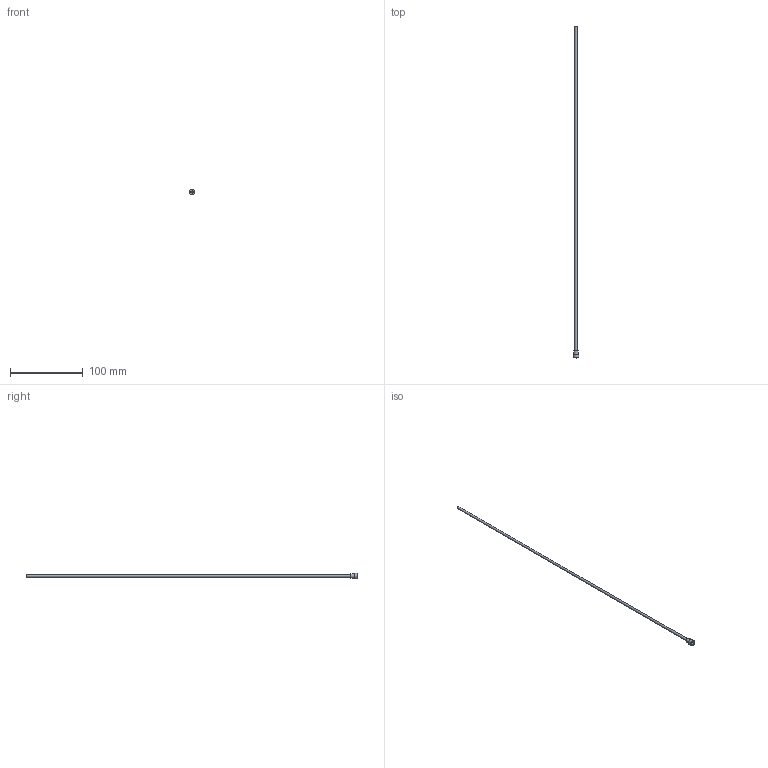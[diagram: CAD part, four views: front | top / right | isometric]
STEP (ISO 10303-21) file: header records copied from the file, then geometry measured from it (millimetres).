
FILE_DESCRIPTION(/* description */ (''),/* implementation_level */ '2;1');
FILE_NAME(/* name */ 'C:/Users/drich/Desktop/JR125T-18 v2.step',/* time_stamp */ '2019-12-30T13:02:20-06:00',/* author */ (''),/* organization */ (''),/* preprocessor_version */ 'ST-DEVELOPER v18',/* originating_system */ 'Autodesk Translation Framework v8.12.0.6',/* authorisation */ '');
FILE_SCHEMA (('AUTOMOTIVE_DESIGN { 1 0 10303 214 3 1 1 }'));
Length unit declared in the file: inch
Products named in the file (1): JR125T-18
Bounding box: 7.8 x 457.2 x 7.8 mm (x, y, z)
Volume: 1147.3 mm3; surface area: 8678.6 mm2
Topology: 1 solids, 1 shells, 19 faces, 47 edges, 33 vertices
Faces by surface type: plane 11, cylinder 4, torus 3, cone 1
Full cylindrical faces by diameter (mm): 2.743 x1, 3.15 x1, 6.243 x1, 7.798 x1
Entity records: 624 total; most frequent: DIRECTION 111, CARTESIAN_POINT 100, ORIENTED_EDGE 94, EDGE_CURVE 47, AXIS2_PLACEMENT_3D 44, VERTEX_POINT 33, EDGE_LOOP 24, CIRCLE 24
